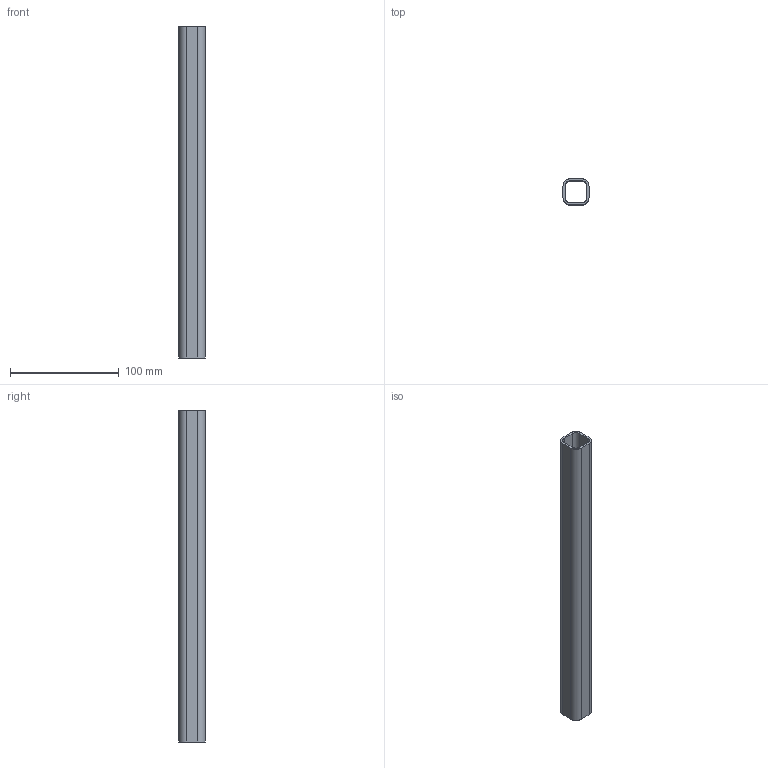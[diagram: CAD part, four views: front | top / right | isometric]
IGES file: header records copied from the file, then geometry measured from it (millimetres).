
Start section: SolidWorks IGES file using analytic representation for surfaces
Global section: file name: O:\Database\Dumb Solids - Coupling & Gussets\DRP-002-0001-13.IGS; native system: SolidWorks 2011; preprocessor: SolidWorks 2011; author: mbush2; date: 111205.153154; units: inch
Bounding box: 23.88 x 23.88 x 304.8 mm (x, y, z)
Surface area: 47806.8 mm2 (no closed solid volume)
Topology: 0 solids, 0 shells, 18 faces, 208 edges, 208 vertices
Faces by surface type: bspline 10, revolution 8
